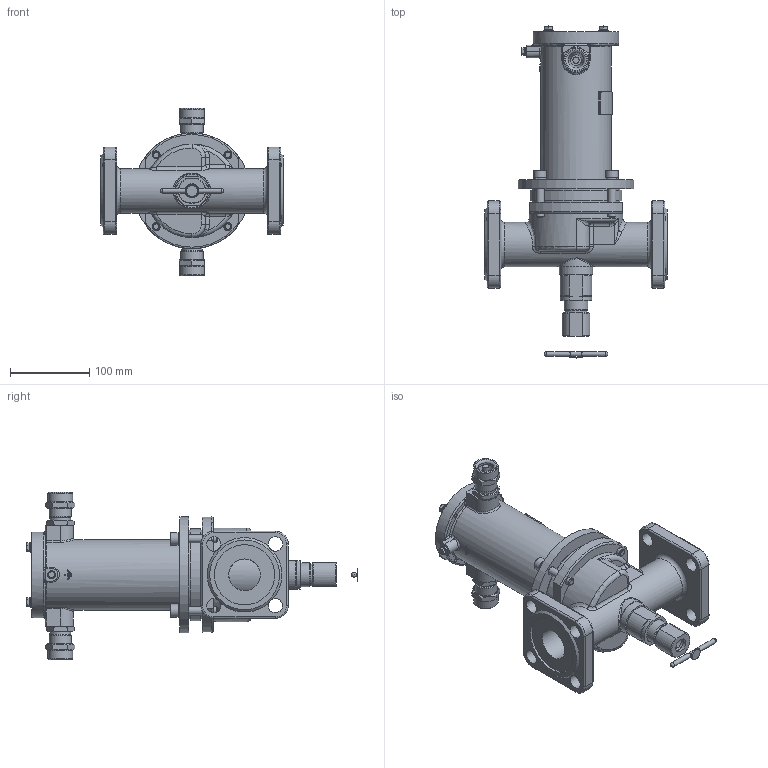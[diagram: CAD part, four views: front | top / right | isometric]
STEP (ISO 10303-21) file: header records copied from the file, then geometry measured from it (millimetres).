
FILE_DESCRIPTION(('STEP AP203'), '1');
FILE_NAME('ÑÅÍÑ-ÏÔ DN40PN25.stp', '2018-10-09T08:09:07', ('Îðëîâ Å.Â.'), ('ÎÎÎ ÍÏÏ Ñåíñîð'), 'ASCON STEP Converter 1.3', 'Kompas 3D', '');
FILE_SCHEMA(('CONFIG_CONTROL_DESIGN','SUPPORT_RESOURCE_SCHEMA'));
Length unit declared in the file: millimetre
Products named in the file (1): 64
Bounding box: 230 x 418.7 x 211 mm (x, y, z)
Volume: 20160 mm3; surface area: 408062.4 mm2
Topology: 16 solids, 17 shells, 1975 faces, 5249 edges, 3389 vertices
Faces by surface type: cylinder 1008, plane 724, cone 126, torus 50, bspline 47, extrusion 16, sphere 4
Full cylindrical faces by diameter (mm): 3.5 x2, 4.134 x1, 4.917 x4, 5 x1, 6 x11, 6.5 x4, 8 x8, 10 x9, 11 x4, 12 x4, 13 x2, 16 x6, 17 x2, 18 x9, 20 x5, 22 x2, 22.376 x2, 23 x1, 23.5 x2, 24 x2, 24.5 x2, 26 x4, 26.376 x2, 27.8 x1, 28 x3, 28.5 x2, 30 x2, 31 x2, 40 x2, 42 x1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
Entity records: 77013 total; most frequent: CARTESIAN_POINT 26816, DIRECTION 10892, ORIENTED_EDGE 10437, EDGE_CURVE 5220, AXIS2_PLACEMENT_3D 4182, VERTEX_POINT 3389, VECTOR 2528, LINE 2512
